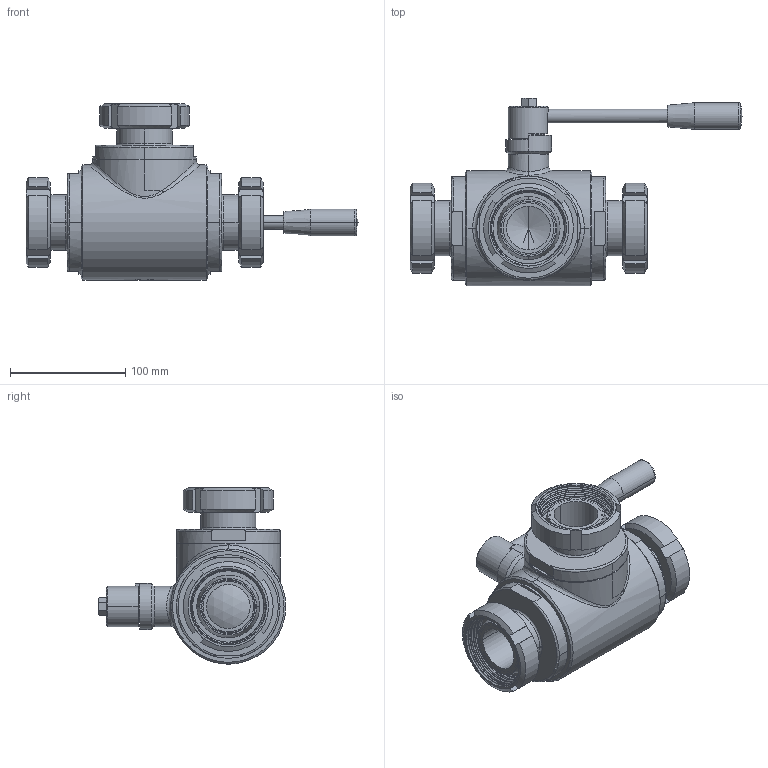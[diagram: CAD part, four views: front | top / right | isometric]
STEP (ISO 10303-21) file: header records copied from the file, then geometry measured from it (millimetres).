
FILE_DESCRIPTION((''),'2;1');
FILE_NAME('PARTE_VUOTA','2023-07-04T16:35:57',('alfio.taboni'),('CDM Tecnoconsulting'),'CREO PARAMETRIC BY PTC INC, 2020053','CREO PARAMETRIC BY PTC INC, 2020053','');
FILE_SCHEMA(('CONFIG_CONTROL_DESIGN','SHAPE_APPEARANCE_LAYERS_GROUPS'));
Products named in the file (1): PARTE_VUOTA
Bounding box: 288.5 x 163 x 153 mm (x, y, z)
Volume: 1107038.9 mm3; surface area: 263817.7 mm2
Topology: 1 solids, 21 shells, 1083 faces, 2752 edges, 1753 vertices
Faces by surface type: plane 434, cylinder 246, cone 184, extrusion 110, bspline 59, torus 44, sphere 6
Entity records: 58590 total; most frequent: CARTESIAN_POINT 24948, ORIENTED_EDGE 5480, DIRECTION 4791, PRESENTATION_STYLE_ASSIGNMENT 2744, STYLED_ITEM 2744, CURVE_STYLE 2742, EDGE_CURVE 2742, VERTEX_POINT 1753
